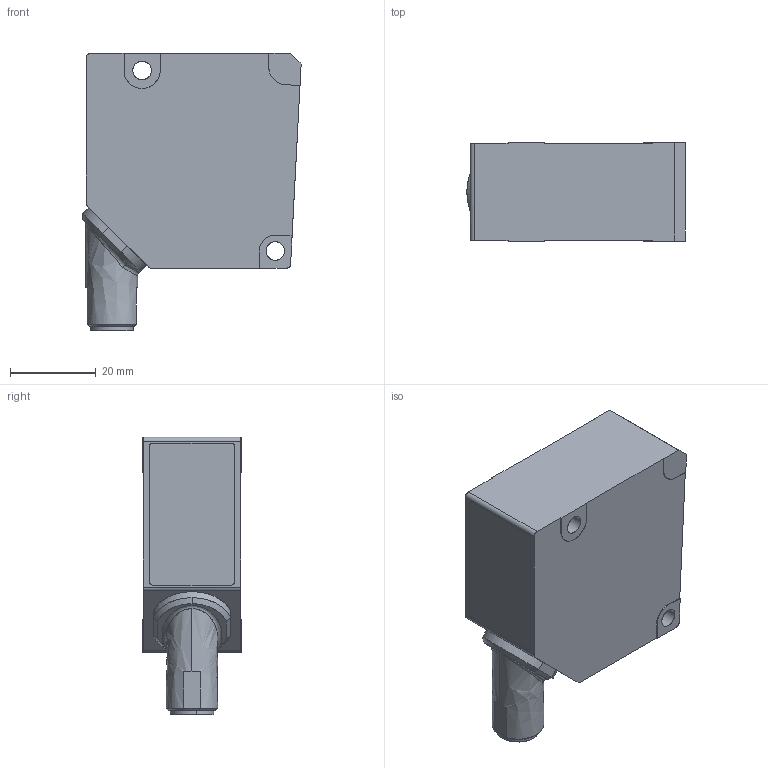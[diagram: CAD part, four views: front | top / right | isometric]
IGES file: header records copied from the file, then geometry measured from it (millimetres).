
Start section: Comment
Global section: file name: xxDM 022.igs; native system:  By Spatial Corp.; preprocessor: XPlus GENERIC/IGES 3.0; author: Author; organization: Title; date: 20070124.080236; units: millimetre
Bounding box: 50.77 x 22.9 x 64.55 mm (x, y, z)
Surface area: 11656 mm2 (no closed solid volume)
Topology: 0 solids, 0 shells, 164 faces, 914 edges, 882 vertices
Faces by surface type: bspline 164
